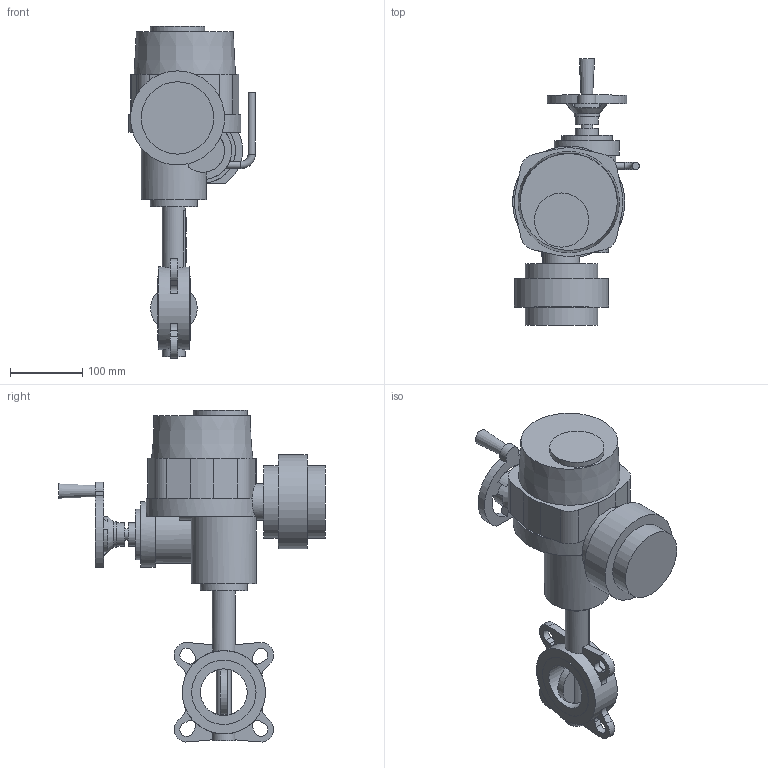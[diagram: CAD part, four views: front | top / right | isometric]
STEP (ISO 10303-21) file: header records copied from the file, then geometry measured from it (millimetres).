
FILE_DESCRIPTION(('STEP AP203'), '1');
FILE_NAME('Çàòâîð 017W.Z(ñòàëü) DN65+ÝÏ QT.A005', '', ('UNSPECIFIED'), ('UNSPECIFIED'), 'ASCON STEP Converter 1.6', 'ASCON Math Kernel', '');
FILE_SCHEMA(('CONFIG_CONTROL_DESIGN'));
Length unit declared in the file: millimetre
Bounding box: 175 x 368 x 458.7 mm (x, y, z)
Volume: 5071088.2 mm3; surface area: 315112.3 mm2
Topology: 1 solids, 1 shells, 714 faces, 1989 edges, 1319 vertices
Faces by surface type: cylinder 452, plane 258, cone 3, torus 1
Full cylindrical faces by diameter (mm): 6.7 x8, 8 x4, 10 x2, 16 x1, 21 x1, 32 x4, 35 x1, 50 x1, 64.6 x1, 65 x1, 70 x1, 75 x1, 89 x2, 90 x2, 100 x2, 115 x1, 130 x1
Entity records: 30072 total; most frequent: CARTESIAN_POINT 5220, DIRECTION 4298, ORIENTED_EDGE 3902, EDGE_CURVE 1951, AXIS2_PLACEMENT_3D 1663, VERTEX_POINT 1319, LINE 972, VECTOR 972
